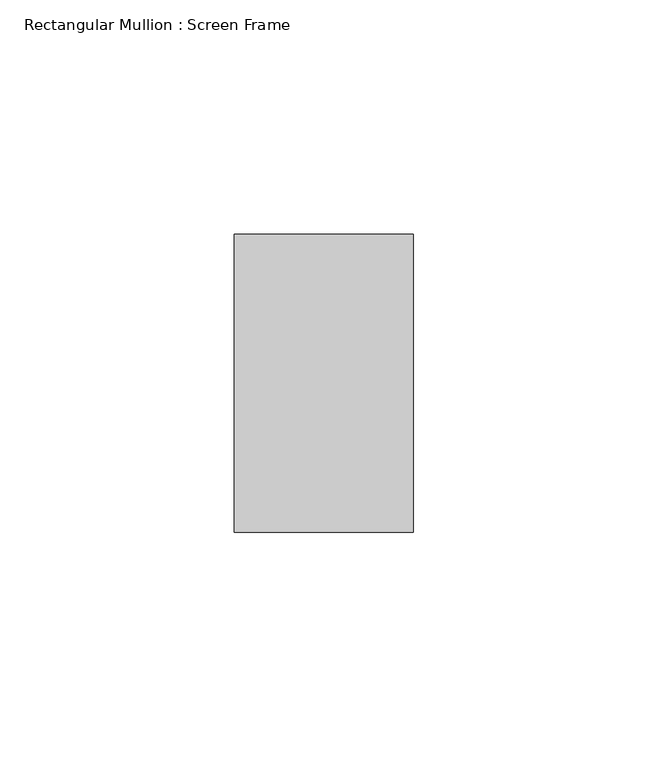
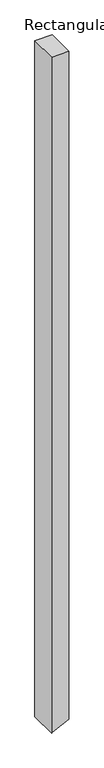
"""IFC4 building model written with IfcOpenShell, lengths in millimetres: member geometry, Rectangular Mullion : Screen Frame."""

from ifc_helpers import new_model, si_unit, frame, origin, place, context, project, spatial, polyline, outline, extrude, source, transform, mapped, element, save


def rectangular_mullion_screen_frame_a49a39bd(model_context):
    return source(origin(), model_context, "Body", "SweptSolid", [
        extrude(outline(polyline([(0.0, 19.05), (0.0, -19.05), (-1572.0863066, -19.05), (-1571.1786793, -17.2644466), (-1552.7194278, 19.05), (0.0, 19.05)])), frame((0.0, -31.75, 0.0), z_axis=(0.0, 1.0, 0.0), x_axis=(0.0, 0.0, 1.0)), (0.0, 0.0, 1.0), 63.5),
    ])


if __name__ == "__main__":
    model = new_model("IFC4")
    model_context = context("Model", 3, world=origin())
    ifc_project = project(units=[si_unit("LENGTHUNIT", "METRE", prefix="MILLI")], contexts=[model_context])
    site = spatial("IfcSite", under=ifc_project)
    building = spatial("IfcBuilding", under=site)
    placement = place(None, origin())
    rectangular_mullion_screen_frame_shape = rectangular_mullion_screen_frame_a49a39bd(model_context)
    element("IfcMember", 1, ObjectType="Rectangular Mullion : Screen Frame", at=placement, inside=building, context=model_context, shape_type="MappedRepresentation", body=[
        mapped(rectangular_mullion_screen_frame_shape, transform((0.0, 0.0, 0.0), x_axis=(1.0, 0.0, 0.0), y_axis=(0.0, 1.0, 0.0), z_axis=(0.0, 0.0, 1.0))),
    ])
    save(model, "model.ifc")
